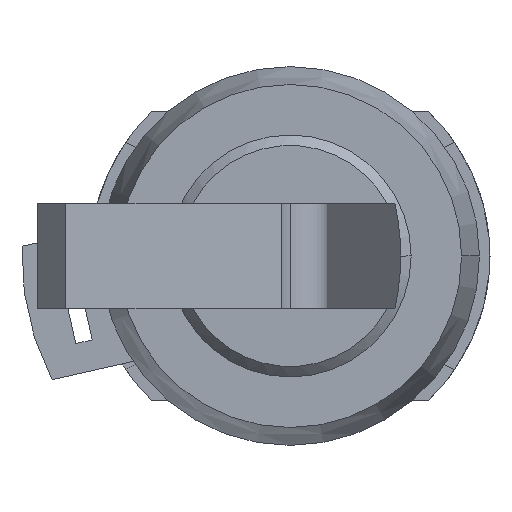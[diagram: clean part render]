
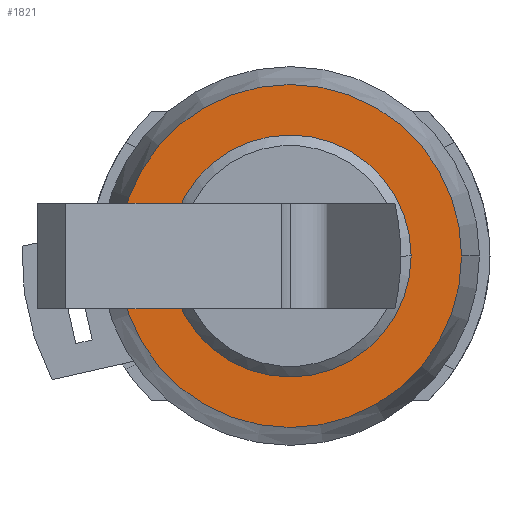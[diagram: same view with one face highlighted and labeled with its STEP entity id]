
A CAD part, left-side view. The second image highlights one B-rep face of the part: STEP entity #1821.
In plain terms, the highlighted planar face has unit normal (-1, 0, 0).
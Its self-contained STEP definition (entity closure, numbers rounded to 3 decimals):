
#1821 = ADVANCED_FACE ( 'NONE', ( #12361, #12364 ), #11485, .T. ) ;
#2390 = EDGE_CURVE ( 'NONE', #6303, #6301, #12638, .T. ) ;
#2393 = EDGE_CURVE ( 'NONE', #6346, #6287, #12643, .T. ) ;
#3262 = EDGE_CURVE ( 'NONE', #6287, #6346, #16227, .T. ) ;
#3265 = EDGE_CURVE ( 'NONE', #6301, #6303, #16231, .T. ) ;
#3773 = ORIENTED_EDGE ( 'NONE', *, *, #3265, .T. ) ;
#3774 = ORIENTED_EDGE ( 'NONE', *, *, #2390, .T. ) ;
#3775 = ORIENTED_EDGE ( 'NONE', *, *, #3262, .F. ) ;
#3776 = ORIENTED_EDGE ( 'NONE', *, *, #2393, .F. ) ;
#5712 = EDGE_LOOP ( 'NONE', ( #3775, #3776 ) ) ;
#5714 = EDGE_LOOP ( 'NONE', ( #3773, #3774 ) ) ;
#6287 = VERTEX_POINT ( 'NONE', #16903 ) ;
#6301 = VERTEX_POINT ( 'NONE', #16917 ) ;
#6303 = VERTEX_POINT ( 'NONE', #16919 ) ;
#6346 = VERTEX_POINT ( 'NONE', #16962 ) ;
#9220 = AXIS2_PLACEMENT_3D ( 'NONE', #11476, #11486, #11487 ) ;
#9364 = AXIS2_PLACEMENT_3D ( 'NONE', #13355, #13360, #13361 ) ;
#9365 = AXIS2_PLACEMENT_3D ( 'NONE', #13367, #13368, #13369 ) ;
#9691 = AXIS2_PLACEMENT_3D ( 'NONE', #16590, #16599, #16600 ) ;
#9693 = AXIS2_PLACEMENT_3D ( 'NONE', #16593, #16608, #16609 ) ;
#11476 = CARTESIAN_POINT ( 'NONE',  ( 0., 13.9, 0. ) ) ;
#11485 = PLANE ( 'NONE',  #9220 ) ;
#11486 = DIRECTION ( 'NONE',  ( -1., 0., 0. ) ) ;
#11487 = DIRECTION ( 'NONE',  ( 0., -1., 0. ) ) ;
#12361 = FACE_BOUND ( 'NONE', #5714, .T. ) ;
#12364 = FACE_OUTER_BOUND ( 'NONE', #5712, .T. ) ;
#12638 = CIRCLE ( 'NONE', #9364, 11.5 ) ;
#12643 = CIRCLE ( 'NONE', #9365, 16.3 ) ;
#13355 = CARTESIAN_POINT ( 'NONE',  ( 0., 0., 0. ) ) ;
#13360 = DIRECTION ( 'NONE',  ( 1., 0., 0. ) ) ;
#13361 = DIRECTION ( 'NONE',  ( 0., 1., 0. ) ) ;
#13367 = CARTESIAN_POINT ( 'NONE',  ( 0., 0., 0. ) ) ;
#13368 = DIRECTION ( 'NONE',  ( 1., 0., 0. ) ) ;
#13369 = DIRECTION ( 'NONE',  ( 0., 1., 0. ) ) ;
#16227 = CIRCLE ( 'NONE', #9691, 16.3 ) ;
#16231 = CIRCLE ( 'NONE', #9693, 11.5 ) ;
#16590 = CARTESIAN_POINT ( 'NONE',  ( 0., 0., 0. ) ) ;
#16593 = CARTESIAN_POINT ( 'NONE',  ( 0., 0., 0. ) ) ;
#16599 = DIRECTION ( 'NONE',  ( 1., 0., 0. ) ) ;
#16600 = DIRECTION ( 'NONE',  ( 0., 1., 0. ) ) ;
#16608 = DIRECTION ( 'NONE',  ( 1., 0., 0. ) ) ;
#16609 = DIRECTION ( 'NONE',  ( 0., 1., 0. ) ) ;
#16903 = CARTESIAN_POINT ( 'NONE',  ( 0., 16.3, 0. ) ) ;
#16917 = CARTESIAN_POINT ( 'NONE',  ( 0., 11.5, 0. ) ) ;
#16919 = CARTESIAN_POINT ( 'NONE',  ( 0., -11.5, 0. ) ) ;
#16962 = CARTESIAN_POINT ( 'NONE',  ( 0., -16.3, 0. ) ) ;
